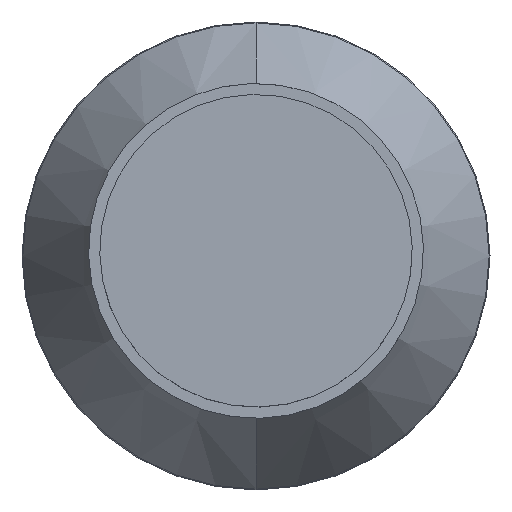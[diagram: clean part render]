
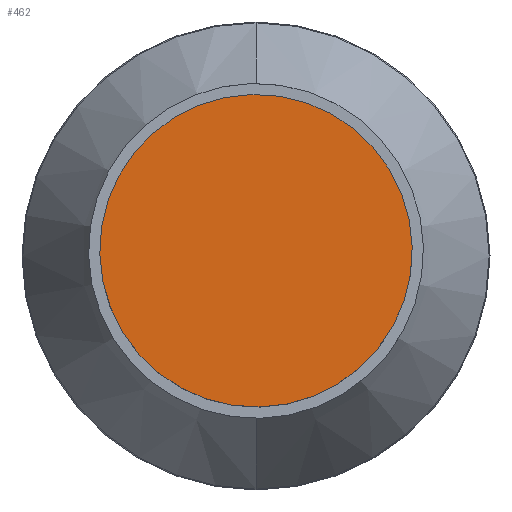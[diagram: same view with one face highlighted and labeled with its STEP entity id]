
A CAD part, top view. The second image highlights one B-rep face of the part: STEP entity #462.
In plain terms, the highlighted planar face has unit normal (0, 0, 1).
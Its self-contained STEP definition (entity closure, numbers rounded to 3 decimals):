
#113 = AXIS2_PLACEMENT_3D ( 'NONE', #2279, #785, #1665 ) ;
#202 = AXIS2_PLACEMENT_3D ( 'NONE', #2752, #1893, #2141 ) ;
#462 = ADVANCED_FACE ( 'NONE', ( #2076 ), #2710, .T. ) ;
#491 = CARTESIAN_POINT ( 'NONE',  ( -175.265, 32.085, 864.301 ) ) ;
#785 = DIRECTION ( 'NONE',  ( 0., 0., 1. ) ) ;
#794 = ORIENTED_EDGE ( 'NONE', *, *, #908, .F. ) ;
#908 = EDGE_CURVE ( 'NONE', #2212, #1607, #2289, .T. ) ;
#1179 = CARTESIAN_POINT ( 'NONE',  ( -133.73, 25.856, 864.301 ) ) ;
#1508 = AXIS2_PLACEMENT_3D ( 'NONE', #1179, #2072, #1843 ) ;
#1607 = VERTEX_POINT ( 'NONE', #1948 ) ;
#1617 = EDGE_CURVE ( 'NONE', #1607, #2212, #1645, .T. ) ;
#1645 = CIRCLE ( 'NONE', #1508, 42. ) ;
#1658 = EDGE_LOOP ( 'NONE', ( #794, #2202 ) ) ;
#1665 = DIRECTION ( 'NONE',  ( 0.989, -0.148, 0. ) ) ;
#1843 = DIRECTION ( 'NONE',  ( -0.989, 0.148, 0. ) ) ;
#1893 = DIRECTION ( 'NONE',  ( 0., 0., -1. ) ) ;
#1948 = CARTESIAN_POINT ( 'NONE',  ( -92.194, 19.626, 864.301 ) ) ;
#2072 = DIRECTION ( 'NONE',  ( 0., 0., -1. ) ) ;
#2076 = FACE_OUTER_BOUND ( 'NONE', #1658, .T. ) ;
#2141 = DIRECTION ( 'NONE',  ( -0.989, 0.148, 0. ) ) ;
#2202 = ORIENTED_EDGE ( 'NONE', *, *, #1617, .F. ) ;
#2212 = VERTEX_POINT ( 'NONE', #491 ) ;
#2279 = CARTESIAN_POINT ( 'NONE',  ( -133.73, 25.856, 864.301 ) ) ;
#2289 = CIRCLE ( 'NONE', #202, 42. ) ;
#2710 = PLANE ( 'NONE',  #113 ) ;
#2752 = CARTESIAN_POINT ( 'NONE',  ( -133.73, 25.856, 864.301 ) ) ;
